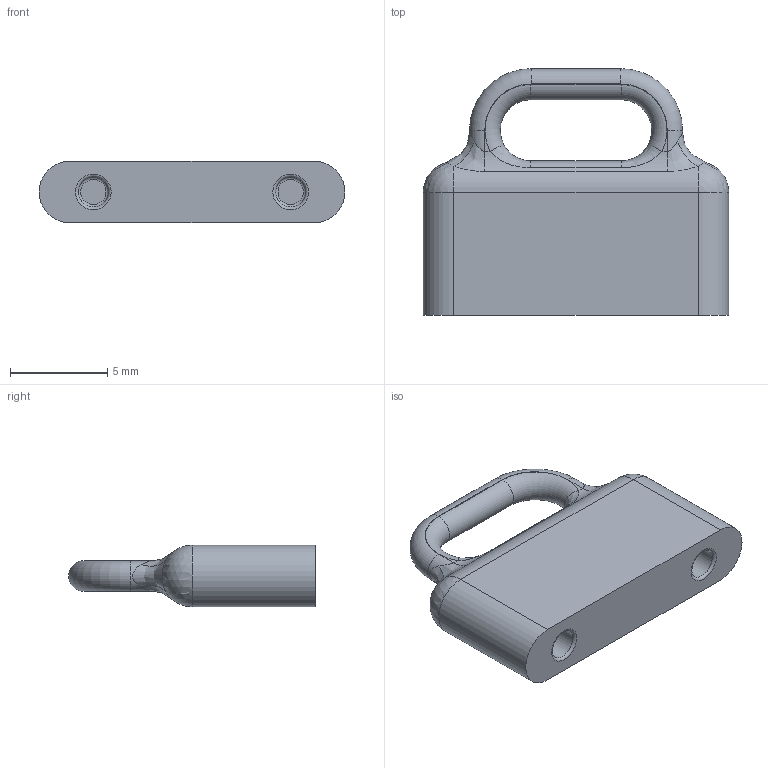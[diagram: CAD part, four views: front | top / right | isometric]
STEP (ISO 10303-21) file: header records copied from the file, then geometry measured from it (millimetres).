
FILE_DESCRIPTION(/* description */ (''),/* implementation_level */ '2;1');
FILE_NAME(/* name */ '\\Snap1\dwgs\Customer 3D Models\450\450-3776 Customer model.stp',/* time_stamp */ '2016-12-21T08:37:29+00:00',/* author */ ('paulk'),/* organization */ (''),/* preprocessor_version */ 'ST-DEVELOPER v15.2',/* originating_system */ 'Autodesk Inventor 2014',/* authorisation */ '');
FILE_SCHEMA (('CONFIG_CONTROL_DESIGN'));
Length unit declared in the file: millimetre
Products named in the file (1): 450-3776 Customer model
Bounding box: 15.75 x 12.7 x 3.17 mm (x, y, z)
Volume: 377.6 mm3; surface area: 470 mm2
Topology: 1 solids, 1 shells, 44 faces, 104 edges, 58 vertices
Faces by surface type: cylinder 16, bspline 10, torus 8, plane 8, sphere 2
Full cylindrical faces by diameter (mm): 1.55 x2
Entity records: 1524 total; most frequent: CARTESIAN_POINT 559, DIRECTION 190, ORIENTED_EDGE 188, EDGE_CURVE 94, AXIS2_PLACEMENT_3D 81, VERTEX_POINT 58, EDGE_LOOP 52, CIRCLE 46
